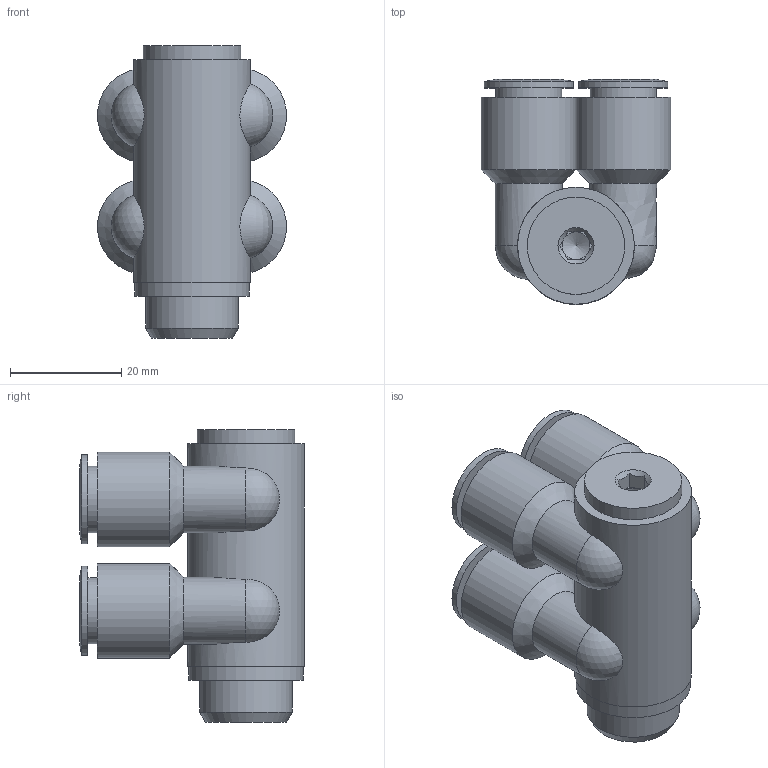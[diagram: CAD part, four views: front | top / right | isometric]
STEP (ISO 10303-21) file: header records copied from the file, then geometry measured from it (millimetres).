
FILE_DESCRIPTION((''),'2;1');
FILE_NAME('C:\Documents and Settings\rivolro1\Documenti\copia di Raccordi\PLASTICA\T33BXXXX\T33B1038.stp','2007-11-03T08:04:10',('Rivolro1'),(''),'Autodesk Inventor 2008','Autodesk Inventor 2008','');
FILE_SCHEMA(('AUTOMOTIVE_DESIGN { 1 0 10303 214 1 1 1 1 }'));
Length unit declared in the file: millimetre
Products named in the file (1): T33B1038
Bounding box: 34 x 40.4 x 52.5 mm (x, y, z)
Volume: 26579.3 mm3; surface area: 13853.7 mm2
Topology: 1 solids, 1 shells, 89 faces, 174 edges, 106 vertices
Faces by surface type: bspline 41, plane 23, cylinder 18, cone 5, sphere 2
Full cylindrical faces by diameter (mm): 8.3 x2, 11.9 x2, 12 x2, 16 x2, 16.6 x1, 17 x2, 17.5 x1, 20.6 x1, 21 x1
Entity records: 3081 total; most frequent: CARTESIAN_POINT 1534, DIRECTION 270, ORIENTED_EDGE 246, EDGE_LOOP 148, EDGE_CURVE 123, AXIS2_PLACEMENT_3D 122, VERTEX_POINT 91, FACE_OUTER_BOUND 89
